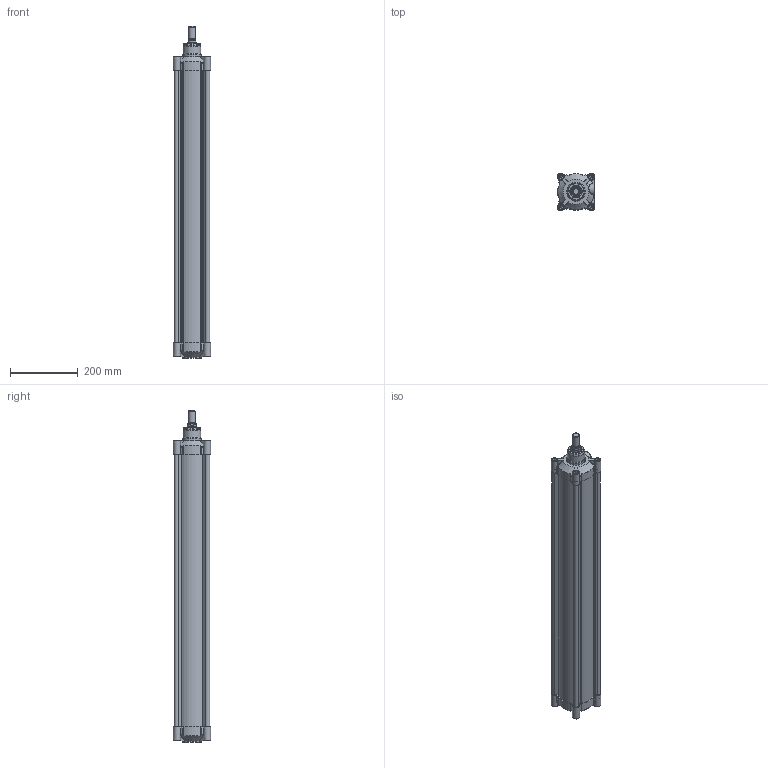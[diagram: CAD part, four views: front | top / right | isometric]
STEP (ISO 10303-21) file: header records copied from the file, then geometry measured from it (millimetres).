
FILE_DESCRIPTION(/* description */ (''),/* implementation_level */ '2;1');
FILE_NAME(/* name */ 'T:\Archivio Inventor\- 00 NUOVI STP PER SITO CON STELO CHE SI MUOVE\SERIE H - U\SERIE HDM\HDM100 - TUBO NUOVO\HDM100.750.GS.M.stp',/* time_stamp */ '2018-08-02T09:56:03+02:00',/* author */ ('carlo.corazza'),/* organization */ (''),/* preprocessor_version */ 'ST-DEVELOPER v16.5',/* originating_system */ 'Autodesk Inventor 2017',/* authorisation */ '');
FILE_SCHEMA (('AUTOMOTIVE_DESIGN { 1 0 10303 214 3 1 1 }'));
Length unit declared in the file: millimetre
Products named in the file (5): HDM100.750.GS.M; TP; TA; STELO-750; CORPO-750
Assembly tree (4 placements, depth 2):
  HDM100.750.GS.M
    TP
    TA
    STELO-750
    CORPO-750
Bounding box: 110 x 110 x 983 mm (x, y, z)
Volume: 2325242.3 mm3; surface area: 1096130.2 mm2
Topology: 4 solids, 29 shells, 1355 faces, 3135 edges, 1912 vertices
Faces by surface type: plane 408, cylinder 313, bspline 270, torus 126, cone 122, sphere 116
Full cylindrical faces by diameter (mm): 5 x2, 5.9 x2, 6.5 x2, 7.25 x2, 8.376 x8, 9.4 x4, 10 x8, 10.3 x8, 11.8 x4, 11.9 x2, 12 x4, 16 x9, 16.3 x8, 17 x2, 17.5 x1, 18.631 x2, 20 x1, 24.5 x1, 25 x1, 25.8 x1, 25.962 x1, 30 x1, 31.5 x2, 35 x3, 52 x1, 55 x2, 100 x1
Entity records: 43668 total; most frequent: CARTESIAN_POINT 13702, ORIENTED_EDGE 5710, DIRECTION 5644, EDGE_CURVE 2855, AXIS2_PLACEMENT_3D 2293, VERTEX_POINT 1857, EDGE_LOOP 1690, STYLED_ITEM 1359
